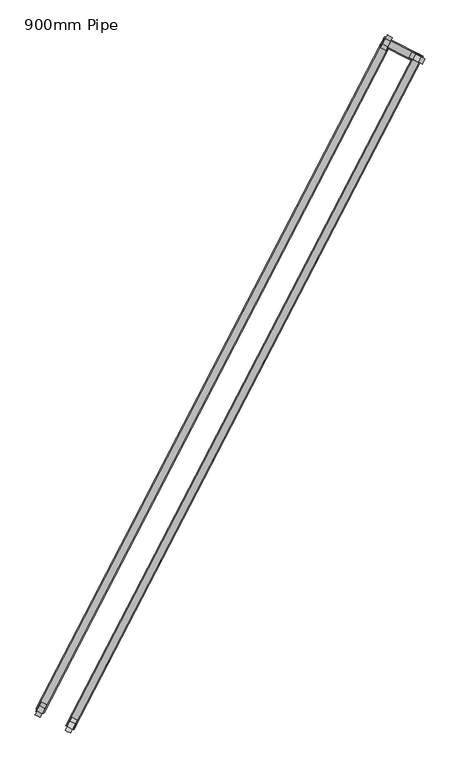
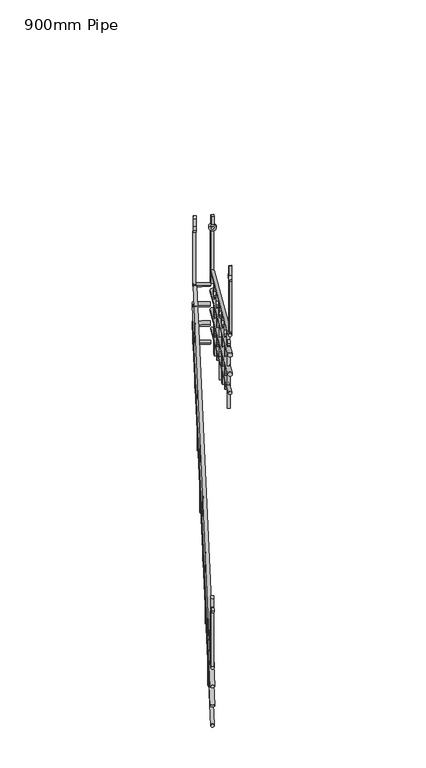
"""IFC4 building model written with IfcOpenShell, lengths in millimetres: railing geometry, 900mm Pipe."""

from ifc_helpers import new_model, si_unit, point, frame, frame_2d, origin, place, context, project, spatial, polyline, circle_curve, ellipse_curve, trimmed, segment, composite_curve, outline, extrude, source, transform, mapped, element, save
from ifc_brep_helpers import plane_surface, cylinder_surface, advanced_brep


def railing_900mm_pipe_1c167c74(model_context):
    return source(origin(), model_context, "Body", "SolidModel", [
        advanced_brep(
        [(7201.7798218, -26010.5348664, 4433.2296007), (7228.4133798, -26024.3426029, 4433.2296007), (8722.3106378, -23077.6033267, 6085.0), (8748.9441959, -23091.4110631, 6085.0), (8725.3167563, -23071.804865, 6085.0), (8752.0624335, -23085.3963363, 6085.0)],
        [
            (0, 1, ellipse_curve(frame((7215.0966008, -26017.4387346, 4433.2296007), z_axis=(-0.46025788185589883, -0.8877852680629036, 0.0), x_axis=(0.0, 0.0, -1.0)), 16.7703993, 15.0)),
            (1, 0, ellipse_curve(frame((7215.0966008, -26017.4387346, 4433.2296007), z_axis=(-0.46025788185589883, -0.8877852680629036, 0.0), x_axis=(0.0, 0.0, -1.0)), 16.7703993, 15.0)),
            (0, 2),
            (2, 3, ellipse_curve(frame((8735.6274168, -23084.5071949, 6085.0), z_axis=(-0.44794621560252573, -0.864037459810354, -0.2297465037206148), x_axis=(0.10574263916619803, 0.2039655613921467, -0.9732505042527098)), 15.4122705, 15.0)),
            (3, 1),
            (3, 2, ellipse_curve(frame((8735.6274168, -23084.5071949, 6085.0), z_axis=(-0.44794621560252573, -0.864037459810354, -0.2297465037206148), x_axis=(0.10574263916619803, 0.2039655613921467, -0.9732505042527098)), 15.4122705, 15.0)),
            (4, 5, ellipse_curve(frame((8738.6895949, -23078.6006006, 6085.0), z_axis=(0.4530341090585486, 0.8914931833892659, 0.0), x_axis=(-0.8914931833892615, 0.45303410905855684, 0.0)), 15.0004945, 15.0)),
            (5, 4, ellipse_curve(frame((8738.6895949, -23078.6006006, 6085.0), z_axis=(0.4530341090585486, 0.8914931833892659, 0.0), x_axis=(-0.8914931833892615, 0.45303410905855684, 0.0)), 15.0004945, 15.0)),
            (2, 4),
            (5, 3),
        ],
        [
            plane_surface(frame((7215.0966008, -26017.4387346, 4450.0), z_axis=(-0.46025788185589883, -0.8877852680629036, 0.0), x_axis=(0.8877852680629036, -0.46025788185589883, 0.0))),
            cylinder_surface(frame((7218.1840231, -26011.4834471, 4436.5835037), z_axis=(-0.41166987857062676, -0.7940645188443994, -0.4472018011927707), x_axis=(0.8877852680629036, -0.460257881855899, 0.0)), 15.0),
            plane_surface(frame((8738.6895949, -23078.6006006, 6100.0), z_axis=(0.4530341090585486, 0.8914931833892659, 0.0), x_axis=(0.8914931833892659, -0.4530341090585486, 0.0))),
            cylinder_surface(frame((8733.9976827, -23087.6507673, 6085.0), z_axis=(-0.46025788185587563, -0.8877852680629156, 0.0), x_axis=(0.8877852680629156, -0.46025788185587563, 0.0)), 15.0),
        ],
        [
            (0, [[1, 2]]),
            (1, [[-1, 3, 4, 5]]),
            (1, [[-2, -5, 6, -3]]),
            (2, [[7, 8]]),
            (3, [[-4, 9, -8, 10]]),
            (3, [[-6, -10, -7, -9]]),
        ],
    ),
        advanced_brep(
        [(8739.124948, -23045.1704289, 6085.0), (8725.3167563, -23071.804865, 6085.0), (8873.566552, -23113.4902248, 6085.0), (8859.7583603, -23140.1246608, 6085.0)],
        [
            (0, 1, ellipse_curve(frame((8732.2208521, -23058.4876469, 6085.0), z_axis=(-0.8877852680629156, 0.4602578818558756, 0.0), x_axis=(-0.4602578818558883, -0.887785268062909, 0.0)), 15.0004945, 15.0)),
            (1, 0, ellipse_curve(frame((8732.2208521, -23058.4876469, 6085.0), z_axis=(-0.8877852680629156, 0.4602578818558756, 0.0), x_axis=(-0.4602578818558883, -0.887785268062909, 0.0)), 15.0004945, 15.0)),
            (2, 3, ellipse_curve(frame((8866.6624562, -23126.8074428, 6085.0), z_axis=(0.8877852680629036, -0.4602578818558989, 0.0), x_axis=(-0.46025788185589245, -0.8877852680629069, 0.0)), 15.0004945, 15.0)),
            (3, 2, ellipse_curve(frame((8866.6624562, -23126.8074428, 6085.0), z_axis=(0.8877852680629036, -0.4602578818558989, 0.0), x_axis=(-0.46025788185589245, -0.8877852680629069, 0.0)), 15.0004945, 15.0)),
            (0, 2),
            (3, 1),
        ],
        [
            plane_surface(frame((8732.2208521, -23058.4876469, 6100.0), z_axis=(-0.8877852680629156, 0.4602578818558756, 0.0), x_axis=(0.4602578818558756, 0.8877852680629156, 0.0))),
            plane_surface(frame((8866.6624562, -23126.8074428, 6100.0), z_axis=(0.8877852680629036, -0.4602578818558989, 0.0), x_axis=(0.4602578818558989, 0.8877852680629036, 0.0))),
            cylinder_surface(frame((8732.2208521, -23058.4876469, 6085.0), z_axis=(-0.8914931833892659, 0.4530341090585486, 0.0), x_axis=(-0.4530341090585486, -0.8914931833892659, 0.0)), 15.0),
        ],
        [
            (0, [[1, 2]]),
            (1, [[3, 4]]),
            (2, [[-1, 5, -4, 6]]),
            (2, [[-2, -6, -3, -5]]),
        ],
    ),
        advanced_brep(
        [(8900.3122292, -23127.0816961, 6212.8655817), (8873.566552, -23113.4902248, 6212.987378), (7362.6651288, -26093.0286077, 7883.2296007), (7336.0315707, -26079.2208712, 7883.2296007)],
        [
            (0, 1, ellipse_curve(frame((8886.9393906, -23120.2859604, 6212.9264798), z_axis=(0.4530341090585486, 0.8914931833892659, 0.0), x_axis=(0.014475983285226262, -0.007356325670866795, -0.9998681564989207)), 16.7709521, 15.0)),
            (1, 0, ellipse_curve(frame((8886.9393906, -23120.2859604, 6212.9264798), z_axis=(0.4530341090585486, 0.8914931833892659, 0.0), x_axis=(0.014475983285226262, -0.007356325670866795, -0.9998681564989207)), 16.7709521, 15.0)),
            (2, 3, ellipse_curve(frame((7349.3483498, -26086.1247394, 7883.2296007), z_axis=(-0.46025788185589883, -0.8877852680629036, 0.0), x_axis=(0.0, 0.0, -1.0)), 16.7703993, 15.0)),
            (3, 2, ellipse_curve(frame((7349.3483498, -26086.1247394, 7883.2296007), z_axis=(-0.46025788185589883, -0.8877852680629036, 0.0), x_axis=(0.0, 0.0, -1.0)), 16.7703993, 15.0)),
            (0, 2),
            (3, 1),
        ],
        [
            plane_surface(frame((8886.9393906, -23120.2859604, 6229.6968791), z_axis=(0.4530341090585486, 0.8914931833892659, 0.0), x_axis=(0.8914931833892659, -0.4530341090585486, 0.0))),
            plane_surface(frame((7349.3483498, -26086.1247394, 7900.0), z_axis=(-0.46025788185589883, -0.8877852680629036, 0.0), x_axis=(0.8877852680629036, -0.46025788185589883, 0.0))),
            cylinder_surface(frame((8883.8519683, -23126.241248, 6216.2803828), z_axis=(0.41166987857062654, 0.7940645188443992, -0.44720180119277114), x_axis=(-0.8877852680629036, 0.46025788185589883, 0.0)), 15.0),
        ],
        [
            (0, [[1, 2]]),
            (1, [[3, 4]]),
            (2, [[-1, 5, -4, 6]]),
            (2, [[-2, -6, -3, -5]]),
        ],
    ),
        advanced_brep(
        [(7201.4574585, -26000.2931936, 4232.1113382), (7236.9688693, -26018.7035088, 4232.1113382), (8720.3585404, -23070.5052263, 5882.1113382), (8755.8699511, -23088.9155415, 5882.1113382)],
        [
            (0, 1, circle_curve(frame((7219.2131639, -26009.4983512, 4232.1113382), z_axis=(-0.41166987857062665, -0.7940645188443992, -0.4472018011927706), x_axis=(0.8877852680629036, -0.460257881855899, 0.0)), 20.0)),
            (1, 0, circle_curve(frame((7219.2131639, -26009.4983512, 4232.1113382), z_axis=(-0.41166987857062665, -0.7940645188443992, -0.4472018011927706), x_axis=(0.8877852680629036, -0.460257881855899, 0.0)), 20.0)),
            (2, 3, circle_curve(frame((8738.1142458, -23079.7103839, 5882.1113382), z_axis=(0.41166987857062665, 0.7940645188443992, 0.4472018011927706), x_axis=(0.8877852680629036, -0.460257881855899, 0.0)), 20.0)),
            (3, 2, circle_curve(frame((8738.1142458, -23079.7103839, 5882.1113382), z_axis=(0.41166987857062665, 0.7940645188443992, 0.4472018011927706), x_axis=(0.8877852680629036, -0.460257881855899, 0.0)), 20.0)),
            (0, 2),
            (3, 1),
        ],
        [
            plane_surface(frame((7215.0966008, -26037.0672033, 4284.8528796), z_axis=(-0.41166987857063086, -0.794064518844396, -0.4472018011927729), x_axis=(0.9113330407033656, -0.35869701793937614, -0.20201123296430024))),
            plane_surface(frame((8733.9976827, -23107.279236, 5934.8528796), z_axis=(0.41166987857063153, 0.794064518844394, 0.44720180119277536), x_axis=(0.9113330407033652, -0.35869701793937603, -0.20201123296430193))),
            cylinder_surface(frame((7219.2131639, -26009.4983512, 4232.1113382), z_axis=(-0.41166987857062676, -0.7940645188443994, -0.4472018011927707), x_axis=(0.8877852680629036, -0.460257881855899, 0.0)), 20.0),
        ],
        [
            (0, [[1, 2]]),
            (1, [[3, 4]]),
            (2, [[-1, 5, -4, 6]]),
            (2, [[-2, -6, -3, -5]]),
        ],
    ),
        advanced_brep(
        [(8716.2419773, -23078.4456097, 5880.0), (8751.753388, -23096.855925, 5880.0), (8718.6325243, -23073.8345157, 5880.0), (8754.143935, -23092.2448309, 5880.0)],
        [
            (0, 1, circle_curve(frame((8733.9976827, -23087.6507673, 5880.0), z_axis=(-0.4602578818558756, -0.8877852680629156, 0.0), x_axis=(0.8877852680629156, -0.4602578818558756, 0.0)), 20.0)),
            (1, 0, circle_curve(frame((8733.9976827, -23087.6507673, 5880.0), z_axis=(-0.4602578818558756, -0.8877852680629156, 0.0), x_axis=(0.8877852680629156, -0.4602578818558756, 0.0)), 20.0)),
            (2, 3, circle_curve(frame((8736.3882296, -23083.0396733, 5880.0), z_axis=(0.4602578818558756, 0.8877852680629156, 0.0), x_axis=(0.8877852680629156, -0.4602578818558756, 0.0)), 20.0)),
            (3, 2, circle_curve(frame((8736.3882296, -23083.0396733, 5880.0), z_axis=(0.4602578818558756, 0.8877852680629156, 0.0), x_axis=(0.8877852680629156, -0.4602578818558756, 0.0)), 20.0)),
            (0, 2),
            (3, 1),
        ],
        [
            plane_surface(frame((8733.9976827, -23087.6507673, 5940.0), z_axis=(-0.4602578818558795, -0.8877852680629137, 0.0), x_axis=(0.8877852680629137, -0.4602578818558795, 0.0))),
            plane_surface(frame((8736.3882296, -23083.0396733, 5940.0), z_axis=(0.4602578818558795, 0.8877852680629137, 0.0), x_axis=(0.8877852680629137, -0.4602578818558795, 0.0))),
            cylinder_surface(frame((8733.9976827, -23087.6507673, 5880.0), z_axis=(-0.4602578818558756, -0.8877852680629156, 0.0), x_axis=(0.8877852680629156, -0.4602578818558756, 0.0)), 20.0),
        ],
        [
            (0, [[1, 2]]),
            (1, [[3, 4]]),
            (2, [[-1, 5, -4, 6]]),
            (2, [[-2, -6, -3, -5]]),
        ],
    ),
        advanced_brep(
        [(8736.9687004, -23038.466111, 5880.0), (8718.5577782, -23073.9786924, 5880.0), (8871.4103044, -23106.7859069, 5880.0), (8852.9993822, -23142.2984883, 5880.0)],
        [
            (0, 1, ellipse_curve(frame((8727.7632393, -23056.2224017, 5880.0), z_axis=(-0.8877852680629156, 0.4602578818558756, 0.0), x_axis=(-0.4602578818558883, -0.887785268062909, 0.0)), 20.0006593, 20.0)),
            (1, 0, ellipse_curve(frame((8727.7632393, -23056.2224017, 5880.0), z_axis=(-0.8877852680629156, 0.4602578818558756, 0.0), x_axis=(-0.4602578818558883, -0.887785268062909, 0.0)), 20.0006593, 20.0)),
            (2, 3, ellipse_curve(frame((8862.2048433, -23124.5421976, 5880.0), z_axis=(0.8877852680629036, -0.4602578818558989, 0.0), x_axis=(-0.46025788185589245, -0.8877852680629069, 0.0)), 20.0006593, 20.0)),
            (3, 2, ellipse_curve(frame((8862.2048433, -23124.5421976, 5880.0), z_axis=(0.8877852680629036, -0.4602578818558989, 0.0), x_axis=(-0.46025788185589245, -0.8877852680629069, 0.0)), 20.0006593, 20.0)),
            (0, 2),
            (3, 1),
        ],
        [
            plane_surface(frame((8727.7632393, -23056.2224017, 5900.0), z_axis=(-0.8877852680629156, 0.4602578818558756, 0.0), x_axis=(0.4602578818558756, 0.8877852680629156, 0.0))),
            plane_surface(frame((8862.2048433, -23124.5421976, 5900.0), z_axis=(0.8877852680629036, -0.4602578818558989, 0.0), x_axis=(0.4602578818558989, 0.8877852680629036, 0.0))),
            cylinder_surface(frame((8727.7632393, -23056.2224017, 5880.0), z_axis=(-0.8914931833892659, 0.4530341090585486, 0.0), x_axis=(-0.4530341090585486, -0.8914931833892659, 0.0)), 20.0),
        ],
        [
            (0, [[1, 2]]),
            (1, [[3, 4]]),
            (2, [[-1, 5, -4, 6]]),
            (2, [[-2, -6, -3, -5]]),
        ],
    ),
        advanced_brep(
        [(8907.0712073, -23124.9078686, 6004.7551492), (8871.4103044, -23106.7859069, 6004.9175443), (7367.1040551, -26095.3298971, 7677.6394677), (7331.5926444, -26076.9195818, 7677.6394677)],
        [
            (0, 1, ellipse_curve(frame((8889.2407559, -23115.8468877, 6004.8363467), z_axis=(0.4530341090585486, 0.8914931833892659, 0.0), x_axis=(0.014475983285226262, -0.007356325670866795, -0.9998681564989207)), 22.3612695, 20.0)),
            (1, 0, ellipse_curve(frame((8889.2407559, -23115.8468877, 6004.8363467), z_axis=(0.4530341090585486, 0.8914931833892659, 0.0), x_axis=(0.014475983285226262, -0.007356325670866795, -0.9998681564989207)), 22.3612695, 20.0)),
            (2, 3, ellipse_curve(frame((7349.3483498, -26086.1247394, 7677.6394677), z_axis=(-0.46025788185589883, -0.8877852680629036, 0.0), x_axis=(0.0, 0.0, -1.0)), 22.3605323, 20.0)),
            (3, 2, ellipse_curve(frame((7349.3483498, -26086.1247394, 7677.6394677), z_axis=(-0.46025788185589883, -0.8877852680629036, 0.0), x_axis=(0.0, 0.0, -1.0)), 22.3605323, 20.0)),
            (0, 2),
            (3, 1),
        ],
        [
            plane_surface(frame((8889.2407559, -23115.8468877, 6027.1968791), z_axis=(0.4530341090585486, 0.8914931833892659, 0.0), x_axis=(0.8914931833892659, -0.4530341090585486, 0.0))),
            plane_surface(frame((7349.3483498, -26086.1247394, 7700.0), z_axis=(-0.46025788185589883, -0.8877852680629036, 0.0), x_axis=(0.8877852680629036, -0.46025788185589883, 0.0))),
            cylinder_surface(frame((8885.1241928, -23123.7872712, 6009.3082173), z_axis=(0.41166987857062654, 0.7940645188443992, -0.44720180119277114), x_axis=(-0.8877852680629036, 0.46025788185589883, 0.0)), 20.0),
        ],
        [
            (0, [[1, 2]]),
            (1, [[3, 4]]),
            (2, [[-1, 5, -4, 6]]),
            (2, [[-2, -6, -3, -5]]),
        ],
    ),
        advanced_brep(
        [(7201.4574585, -26000.2931936, 4032.1113382), (7236.9688693, -26018.7035088, 4032.1113382), (8720.3585404, -23070.5052263, 5682.1113382), (8755.8699511, -23088.9155415, 5682.1113382)],
        [
            (0, 1, circle_curve(frame((7219.2131639, -26009.4983512, 4032.1113382), z_axis=(-0.41166987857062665, -0.7940645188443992, -0.4472018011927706), x_axis=(0.8877852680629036, -0.460257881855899, 0.0)), 20.0)),
            (1, 0, circle_curve(frame((7219.2131639, -26009.4983512, 4032.1113382), z_axis=(-0.41166987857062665, -0.7940645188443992, -0.4472018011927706), x_axis=(0.8877852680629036, -0.460257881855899, 0.0)), 20.0)),
            (2, 3, circle_curve(frame((8738.1142458, -23079.7103839, 5682.1113382), z_axis=(0.41166987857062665, 0.7940645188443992, 0.4472018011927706), x_axis=(0.8877852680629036, -0.460257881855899, 0.0)), 20.0)),
            (3, 2, circle_curve(frame((8738.1142458, -23079.7103839, 5682.1113382), z_axis=(0.41166987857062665, 0.7940645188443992, 0.4472018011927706), x_axis=(0.8877852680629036, -0.460257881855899, 0.0)), 20.0)),
            (0, 2),
            (3, 1),
        ],
        [
            plane_surface(frame((7215.0966008, -26037.0672033, 4084.8528796), z_axis=(-0.41166987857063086, -0.794064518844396, -0.4472018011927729), x_axis=(0.9113330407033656, -0.35869701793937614, -0.20201123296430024))),
            plane_surface(frame((8733.9976827, -23107.279236, 5734.8528796), z_axis=(0.41166987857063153, 0.794064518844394, 0.44720180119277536), x_axis=(0.9113330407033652, -0.35869701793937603, -0.20201123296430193))),
            cylinder_surface(frame((7219.2131639, -26009.4983512, 4032.1113382), z_axis=(-0.41166987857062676, -0.7940645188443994, -0.4472018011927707), x_axis=(0.8877852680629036, -0.460257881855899, 0.0)), 20.0),
        ],
        [
            (0, [[1, 2]]),
            (1, [[3, 4]]),
            (2, [[-1, 5, -4, 6]]),
            (2, [[-2, -6, -3, -5]]),
        ],
    ),
        advanced_brep(
        [(8716.2419773, -23078.4456097, 5680.0), (8751.753388, -23096.855925, 5680.0), (8718.6325243, -23073.8345157, 5680.0), (8754.143935, -23092.2448309, 5680.0)],
        [
            (0, 1, circle_curve(frame((8733.9976827, -23087.6507673, 5680.0), z_axis=(-0.4602578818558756, -0.8877852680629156, 0.0), x_axis=(0.8877852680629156, -0.4602578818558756, 0.0)), 20.0)),
            (1, 0, circle_curve(frame((8733.9976827, -23087.6507673, 5680.0), z_axis=(-0.4602578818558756, -0.8877852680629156, 0.0), x_axis=(0.8877852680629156, -0.4602578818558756, 0.0)), 20.0)),
            (2, 3, circle_curve(frame((8736.3882296, -23083.0396733, 5680.0), z_axis=(0.4602578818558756, 0.8877852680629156, 0.0), x_axis=(0.8877852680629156, -0.4602578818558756, 0.0)), 20.0)),
            (3, 2, circle_curve(frame((8736.3882296, -23083.0396733, 5680.0), z_axis=(0.4602578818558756, 0.8877852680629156, 0.0), x_axis=(0.8877852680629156, -0.4602578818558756, 0.0)), 20.0)),
            (0, 2),
            (3, 1),
        ],
        [
            plane_surface(frame((8733.9976827, -23087.6507673, 5740.0), z_axis=(-0.4602578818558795, -0.8877852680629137, 0.0), x_axis=(0.8877852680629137, -0.4602578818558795, 0.0))),
            plane_surface(frame((8736.3882296, -23083.0396733, 5740.0), z_axis=(0.4602578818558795, 0.8877852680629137, 0.0), x_axis=(0.8877852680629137, -0.4602578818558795, 0.0))),
            cylinder_surface(frame((8733.9976827, -23087.6507673, 5680.0), z_axis=(-0.4602578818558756, -0.8877852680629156, 0.0), x_axis=(0.8877852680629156, -0.4602578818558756, 0.0)), 20.0),
        ],
        [
            (0, [[1, 2]]),
            (1, [[3, 4]]),
            (2, [[-1, 5, -4, 6]]),
            (2, [[-2, -6, -3, -5]]),
        ],
    ),
        advanced_brep(
        [(8736.9687004, -23038.466111, 5680.0), (8718.5577782, -23073.9786924, 5680.0), (8871.4103044, -23106.7859069, 5680.0), (8852.9993822, -23142.2984883, 5680.0)],
        [
            (0, 1, ellipse_curve(frame((8727.7632393, -23056.2224017, 5680.0), z_axis=(-0.8877852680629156, 0.4602578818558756, 0.0), x_axis=(-0.4602578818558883, -0.887785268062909, 0.0)), 20.0006593, 20.0)),
            (1, 0, ellipse_curve(frame((8727.7632393, -23056.2224017, 5680.0), z_axis=(-0.8877852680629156, 0.4602578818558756, 0.0), x_axis=(-0.4602578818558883, -0.887785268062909, 0.0)), 20.0006593, 20.0)),
            (2, 3, ellipse_curve(frame((8862.2048433, -23124.5421976, 5680.0), z_axis=(0.8877852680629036, -0.4602578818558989, 0.0), x_axis=(-0.46025788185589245, -0.8877852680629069, 0.0)), 20.0006593, 20.0)),
            (3, 2, ellipse_curve(frame((8862.2048433, -23124.5421976, 5680.0), z_axis=(0.8877852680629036, -0.4602578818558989, 0.0), x_axis=(-0.46025788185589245, -0.8877852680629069, 0.0)), 20.0006593, 20.0)),
            (0, 2),
            (3, 1),
        ],
        [
            plane_surface(frame((8727.7632393, -23056.2224017, 5700.0), z_axis=(-0.8877852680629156, 0.4602578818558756, 0.0), x_axis=(0.4602578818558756, 0.8877852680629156, 0.0))),
            plane_surface(frame((8862.2048433, -23124.5421976, 5700.0), z_axis=(0.8877852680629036, -0.4602578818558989, 0.0), x_axis=(0.4602578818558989, 0.8877852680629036, 0.0))),
            cylinder_surface(frame((8727.7632393, -23056.2224017, 5680.0), z_axis=(-0.8914931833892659, 0.4530341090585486, 0.0), x_axis=(-0.4530341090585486, -0.8914931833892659, 0.0)), 20.0),
        ],
        [
            (0, [[1, 2]]),
            (1, [[3, 4]]),
            (2, [[-1, 5, -4, 6]]),
            (2, [[-2, -6, -3, -5]]),
        ],
    ),
        advanced_brep(
        [(8907.0712073, -23124.9078686, 5804.7551492), (8871.4103044, -23106.7859069, 5804.9175443), (7367.1040551, -26095.3298971, 7477.6394677), (7331.5926444, -26076.9195818, 7477.6394677)],
        [
            (0, 1, ellipse_curve(frame((8889.2407559, -23115.8468877, 5804.8363467), z_axis=(0.4530341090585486, 0.8914931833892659, 0.0), x_axis=(0.014475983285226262, -0.007356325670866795, -0.9998681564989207)), 22.3612695, 20.0)),
            (1, 0, ellipse_curve(frame((8889.2407559, -23115.8468877, 5804.8363467), z_axis=(0.4530341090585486, 0.8914931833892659, 0.0), x_axis=(0.014475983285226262, -0.007356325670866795, -0.9998681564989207)), 22.3612695, 20.0)),
            (2, 3, ellipse_curve(frame((7349.3483498, -26086.1247394, 7477.6394677), z_axis=(-0.46025788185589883, -0.8877852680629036, 0.0), x_axis=(0.0, 0.0, -1.0)), 22.3605323, 20.0)),
            (3, 2, ellipse_curve(frame((7349.3483498, -26086.1247394, 7477.6394677), z_axis=(-0.46025788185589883, -0.8877852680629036, 0.0), x_axis=(0.0, 0.0, -1.0)), 22.3605323, 20.0)),
            (0, 2),
            (3, 1),
        ],
        [
            plane_surface(frame((8889.2407559, -23115.8468877, 5827.1968791), z_axis=(0.4530341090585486, 0.8914931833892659, 0.0), x_axis=(0.8914931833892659, -0.4530341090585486, 0.0))),
            plane_surface(frame((7349.3483498, -26086.1247394, 7500.0), z_axis=(-0.46025788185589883, -0.8877852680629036, 0.0), x_axis=(0.8877852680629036, -0.46025788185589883, 0.0))),
            cylinder_surface(frame((8885.1241928, -23123.7872712, 5809.3082173), z_axis=(0.41166987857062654, 0.7940645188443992, -0.44720180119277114), x_axis=(-0.8877852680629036, 0.46025788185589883, 0.0)), 20.0),
        ],
        [
            (0, [[1, 2]]),
            (1, [[3, 4]]),
            (2, [[-1, 5, -4, 6]]),
            (2, [[-2, -6, -3, -5]]),
        ],
    ),
        advanced_brep(
        [(7201.7798218, -26010.5348664, 3833.2296007), (7228.4133798, -26024.3426029, 3833.2296007), (8722.3106378, -23077.6033267, 5485.0), (8748.9441959, -23091.4110631, 5485.0), (8725.3167563, -23071.804865, 5485.0), (8752.0624335, -23085.3963363, 5485.0)],
        [
            (0, 1, ellipse_curve(frame((7215.0966008, -26017.4387346, 3833.2296007), z_axis=(-0.46025788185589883, -0.8877852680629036, 0.0), x_axis=(0.0, 0.0, -1.0)), 16.7703993, 15.0)),
            (1, 0, ellipse_curve(frame((7215.0966008, -26017.4387346, 3833.2296007), z_axis=(-0.46025788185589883, -0.8877852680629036, 0.0), x_axis=(0.0, 0.0, -1.0)), 16.7703993, 15.0)),
            (0, 2),
            (2, 3, ellipse_curve(frame((8735.6274168, -23084.5071949, 5485.0), z_axis=(-0.44794621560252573, -0.864037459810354, -0.2297465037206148), x_axis=(0.10574263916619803, 0.2039655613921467, -0.9732505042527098)), 15.4122705, 15.0)),
            (3, 1),
            (3, 2, ellipse_curve(frame((8735.6274168, -23084.5071949, 5485.0), z_axis=(-0.44794621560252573, -0.864037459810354, -0.2297465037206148), x_axis=(0.10574263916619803, 0.2039655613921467, -0.9732505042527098)), 15.4122705, 15.0)),
            (4, 5, ellipse_curve(frame((8738.6895949, -23078.6006006, 5485.0), z_axis=(0.4530341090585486, 0.8914931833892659, 0.0), x_axis=(-0.8914931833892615, 0.45303410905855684, 0.0)), 15.0004945, 15.0)),
            (5, 4, ellipse_curve(frame((8738.6895949, -23078.6006006, 5485.0), z_axis=(0.4530341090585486, 0.8914931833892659, 0.0), x_axis=(-0.8914931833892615, 0.45303410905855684, 0.0)), 15.0004945, 15.0)),
            (2, 4),
            (5, 3),
        ],
        [
            plane_surface(frame((7215.0966008, -26017.4387346, 3850.0), z_axis=(-0.46025788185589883, -0.8877852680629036, 0.0), x_axis=(0.8877852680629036, -0.46025788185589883, 0.0))),
            cylinder_surface(frame((7218.1840231, -26011.4834471, 3836.5835037), z_axis=(-0.41166987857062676, -0.7940645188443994, -0.4472018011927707), x_axis=(0.8877852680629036, -0.460257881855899, 0.0)), 15.0),
            plane_surface(frame((8738.6895949, -23078.6006006, 5500.0), z_axis=(0.4530341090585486, 0.8914931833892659, 0.0), x_axis=(0.8914931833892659, -0.4530341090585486, 0.0))),
            cylinder_surface(frame((8733.9976827, -23087.6507673, 5485.0), z_axis=(-0.46025788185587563, -0.8877852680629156, 0.0), x_axis=(0.8877852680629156, -0.46025788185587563, 0.0)), 15.0),
        ],
        [
            (0, [[1, 2]]),
            (1, [[-1, 3, 4, 5]]),
            (1, [[-2, -5, 6, -3]]),
            (2, [[7, 8]]),
            (3, [[-4, 9, -8, 10]]),
            (3, [[-6, -10, -7, -9]]),
        ],
    ),
        advanced_brep(
        [(8739.124948, -23045.1704289, 5485.0), (8725.3167563, -23071.804865, 5485.0), (8873.566552, -23113.4902248, 5485.0), (8859.7583603, -23140.1246608, 5485.0)],
        [
            (0, 1, ellipse_curve(frame((8732.2208521, -23058.4876469, 5485.0), z_axis=(-0.8877852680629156, 0.4602578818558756, 0.0), x_axis=(-0.4602578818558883, -0.887785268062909, 0.0)), 15.0004945, 15.0)),
            (1, 0, ellipse_curve(frame((8732.2208521, -23058.4876469, 5485.0), z_axis=(-0.8877852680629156, 0.4602578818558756, 0.0), x_axis=(-0.4602578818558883, -0.887785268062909, 0.0)), 15.0004945, 15.0)),
            (2, 3, ellipse_curve(frame((8866.6624562, -23126.8074428, 5485.0), z_axis=(0.8877852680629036, -0.4602578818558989, 0.0), x_axis=(-0.46025788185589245, -0.8877852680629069, 0.0)), 15.0004945, 15.0)),
            (3, 2, ellipse_curve(frame((8866.6624562, -23126.8074428, 5485.0), z_axis=(0.8877852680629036, -0.4602578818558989, 0.0), x_axis=(-0.46025788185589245, -0.8877852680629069, 0.0)), 15.0004945, 15.0)),
            (0, 2),
            (3, 1),
        ],
        [
            plane_surface(frame((8732.2208521, -23058.4876469, 5500.0), z_axis=(-0.8877852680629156, 0.4602578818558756, 0.0), x_axis=(0.4602578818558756, 0.8877852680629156, 0.0))),
            plane_surface(frame((8866.6624562, -23126.8074428, 5500.0), z_axis=(0.8877852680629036, -0.4602578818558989, 0.0), x_axis=(0.4602578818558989, 0.8877852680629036, 0.0))),
            cylinder_surface(frame((8732.2208521, -23058.4876469, 5485.0), z_axis=(-0.8914931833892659, 0.4530341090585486, 0.0), x_axis=(-0.4530341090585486, -0.8914931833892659, 0.0)), 15.0),
        ],
        [
            (0, [[1, 2]]),
            (1, [[3, 4]]),
            (2, [[-1, 5, -4, 6]]),
            (2, [[-2, -6, -3, -5]]),
        ],
    ),
        advanced_brep(
        [(8900.3122292, -23127.0816961, 5612.8655817), (8873.566552, -23113.4902248, 5612.987378), (7362.6651288, -26093.0286077, 7283.2296007), (7336.0315707, -26079.2208712, 7283.2296007)],
        [
            (0, 1, ellipse_curve(frame((8886.9393906, -23120.2859604, 5612.9264798), z_axis=(0.4530341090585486, 0.8914931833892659, 0.0), x_axis=(0.014475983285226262, -0.007356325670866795, -0.9998681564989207)), 16.7709521, 15.0)),
            (1, 0, ellipse_curve(frame((8886.9393906, -23120.2859604, 5612.9264798), z_axis=(0.4530341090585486, 0.8914931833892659, 0.0), x_axis=(0.014475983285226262, -0.007356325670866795, -0.9998681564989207)), 16.7709521, 15.0)),
            (2, 3, ellipse_curve(frame((7349.3483498, -26086.1247394, 7283.2296007), z_axis=(-0.46025788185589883, -0.8877852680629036, 0.0), x_axis=(0.0, 0.0, -1.0)), 16.7703993, 15.0)),
            (3, 2, ellipse_curve(frame((7349.3483498, -26086.1247394, 7283.2296007), z_axis=(-0.46025788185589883, -0.8877852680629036, 0.0), x_axis=(0.0, 0.0, -1.0)), 16.7703993, 15.0)),
            (0, 2),
            (3, 1),
        ],
        [
            plane_surface(frame((8886.9393906, -23120.2859604, 5629.6968791), z_axis=(0.4530341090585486, 0.8914931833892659, 0.0), x_axis=(0.8914931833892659, -0.4530341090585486, 0.0))),
            plane_surface(frame((7349.3483498, -26086.1247394, 7300.0), z_axis=(-0.46025788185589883, -0.8877852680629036, 0.0), x_axis=(0.8877852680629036, -0.46025788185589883, 0.0))),
            cylinder_surface(frame((8883.8519683, -23126.241248, 5616.2803828), z_axis=(0.41166987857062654, 0.7940645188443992, -0.44720180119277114), x_axis=(-0.8877852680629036, 0.46025788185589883, 0.0)), 15.0),
        ],
        [
            (0, [[1, 2]]),
            (1, [[3, 4]]),
            (2, [[-1, 5, -4, 6]]),
            (2, [[-2, -6, -3, -5]]),
        ],
    ),
        extrude(outline(composite_curve([segment(trimmed(circle_curve(frame_2d((0.0, -31.7499999)), 31.75), [point((0.0, -63.4999999))], [point((0.0, 0.0))], False, "CARTESIAN"), True, "CONTINUOUS"), segment(trimmed(circle_curve(frame_2d((0.0, -31.7499999)), 31.75), [point((0.0, 0.0))], [point((0.0, -63.4999999))], False, "CARTESIAN"), True, "CONTINUOUS")], self_intersect=False), holes=[composite_curve([segment(trimmed(circle_curve(frame_2d((0.0, -31.7499999)), 12.7), [point((0.0, -44.4499999))], [point((0.0, -19.0499999))], True, "CARTESIAN"), True, "CONTINUOUS"), segment(trimmed(circle_curve(frame_2d((0.0, -31.7499999)), 12.7), [point((0.0, -19.0499999))], [point((0.0, -44.4499999))], True, "CARTESIAN"), True, "CONTINUOUS")], self_intersect=False)]), frame((7525.1497098, -25774.6170755, 7586.5221548), z_axis=(-0.8877852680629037, 0.460257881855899, 0.0), x_axis=(0.0, 0.0, 1.0)), (0.0, 0.0, 1.0), 25.4),
        extrude(outline(polyline([(7498.1120884, -25778.4814352), (7520.6618342, -25790.1719854), (7508.971284, -25812.7217312), (7486.4215382, -25801.031181), (7498.1120884, -25778.4814352)])), frame((0.0, 0.0, 6900.0), z_axis=(0.0, 0.0, 1.0), x_axis=(1.0, 0.0, 0.0)), (0.0, 0.0, 1.0), 654.7721548),
        extrude(outline(polyline([(317.5, 0.0), (317.5, -25.4), (234.9497907, -25.4), (222.2502094, 0.0), (317.5, 0.0)])), frame((7504.691247, -25814.0791306, 7935.7721548), z_axis=(-0.8877852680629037, 0.460257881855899, 0.0), x_axis=(0.0, 0.0, -1.0)), (0.0, 0.0, 1.0), 25.4),
        extrude(outline(composite_curve([segment(trimmed(circle_curve(frame_2d((0.0, -31.7500001)), 31.75), [point((0.0, -63.5000001))], [point((0.0, 0.0))], False, "CARTESIAN"), True, "CONTINUOUS"), segment(trimmed(circle_curve(frame_2d((0.0, -31.7500001)), 31.75), [point((0.0, 0.0))], [point((0.0, -63.5000001))], False, "CARTESIAN"), True, "CONTINUOUS")], self_intersect=False), holes=[composite_curve([segment(trimmed(circle_curve(frame_2d((0.0, -31.7500001)), 12.7), [point((0.0, -44.4500001))], [point((0.0, -19.0500001))], True, "CARTESIAN"), True, "CONTINUOUS"), segment(trimmed(circle_curve(frame_2d((0.0, -31.7500001)), 12.7), [point((0.0, -19.0500001))], [point((0.0, -44.4500001))], True, "CARTESIAN"), True, "CONTINUOUS")], self_intersect=False)]), frame((7755.2786508, -25330.7244414, 7336.5303962), z_axis=(-0.8877852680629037, 0.460257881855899, 0.0), x_axis=(0.0, 0.0, 1.0)), (0.0, 0.0, 1.0), 25.4),
        extrude(outline(polyline([(7728.2410293, -25334.5888012), (7750.7907751, -25346.2793514), (7739.1002249, -25368.8290972), (7716.5504791, -25357.138547), (7728.2410293, -25334.5888012)])), frame((0.0, 0.0, 6750.0), z_axis=(0.0, 0.0, 1.0), x_axis=(1.0, 0.0, 0.0)), (0.0, 0.0, 1.0), 554.7803962),
        extrude(outline(polyline([(317.5, 0.0), (317.5, -25.4), (234.9497907, -25.4), (222.2502093, 0.0), (317.5, 0.0)])), frame((7734.8201879, -25370.1864966, 7685.7803962), z_axis=(-0.8877852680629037, 0.460257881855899, 0.0), x_axis=(0.0, 0.0, -1.0)), (0.0, 0.0, 1.0), 25.4),
        extrude(outline(composite_curve([segment(trimmed(circle_curve(frame_2d((0.0, -31.75)), 31.75), [point((0.0, -63.5))], [point((0.0, 0.0))], False, "CARTESIAN"), True, "CONTINUOUS"), segment(trimmed(circle_curve(frame_2d((0.0, -31.75)), 31.75), [point((0.0, 0.0))], [point((0.0, -63.5))], False, "CARTESIAN"), True, "CONTINUOUS")], self_intersect=False), holes=[composite_curve([segment(trimmed(circle_curve(frame_2d((0.0, -31.75)), 12.7), [point((0.0, -44.45))], [point((0.0, -19.05))], True, "CARTESIAN"), True, "CONTINUOUS"), segment(trimmed(circle_curve(frame_2d((0.0, -31.75)), 12.7), [point((0.0, -19.05))], [point((0.0, -44.45))], True, "CARTESIAN"), True, "CONTINUOUS")], self_intersect=False)]), frame((7985.4075917, -24886.8318074, 7086.5386377), z_axis=(-0.8877852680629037, 0.460257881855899, 0.0), x_axis=(0.0, 0.0, 1.0)), (0.0, 0.0, 1.0), 25.4),
        extrude(outline(polyline([(7958.3699702, -24890.6961671), (7980.9197161, -24902.3867173), (7969.2291659, -24924.9364631), (7946.67942, -24913.2459129), (7958.3699702, -24890.6961671)])), frame((0.0, 0.0, 6450.0), z_axis=(0.0, 0.0, 1.0), x_axis=(1.0, 0.0, 0.0)), (0.0, 0.0, 1.0), 604.7886377),
        extrude(outline(polyline([(317.5, 0.0), (317.5, -25.4), (234.9497907, -25.4), (222.2502094, 0.0), (317.5, 0.0)])), frame((7964.9491289, -24926.2938626, 7435.7886377), z_axis=(-0.8877852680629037, 0.460257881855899, 0.0), x_axis=(0.0, 0.0, -1.0)), (0.0, 0.0, 1.0), 25.4),
        extrude(outline(composite_curve([segment(trimmed(circle_curve(frame_2d((0.0, -31.7499999)), 31.75), [point((0.0, -63.5))], [point((0.0, 0.0))], False, "CARTESIAN"), True, "CONTINUOUS"), segment(trimmed(circle_curve(frame_2d((0.0, -31.7499999)), 31.75), [point((0.0, 0.0))], [point((0.0, -63.5))], False, "CARTESIAN"), True, "CONTINUOUS")], self_intersect=False), holes=[composite_curve([segment(trimmed(circle_curve(frame_2d((0.0, -31.7499999)), 12.7), [point((0.0, -44.4499999))], [point((0.0, -19.0499999))], True, "CARTESIAN"), True, "CONTINUOUS"), segment(trimmed(circle_curve(frame_2d((0.0, -31.7499999)), 12.7), [point((0.0, -19.0499999))], [point((0.0, -44.4499999))], True, "CARTESIAN"), True, "CONTINUOUS")], self_intersect=False)]), frame((8215.5365326, -24442.9391734, 6836.5221548), z_axis=(-0.8877852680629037, 0.460257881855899, 0.0), x_axis=(0.0, 0.0, 1.0)), (0.0, 0.0, 1.0), 25.4),
        extrude(outline(polyline([(8188.4989112, -24446.8035331), (8211.048657, -24458.4940833), (8199.3581068, -24481.0438291), (8176.808361, -24469.3532789), (8188.4989112, -24446.8035331)])), frame((0.0, 0.0, 6150.0), z_axis=(0.0, 0.0, 1.0), x_axis=(1.0, 0.0, 0.0)), (0.0, 0.0, 1.0), 654.7721548),
        extrude(outline(polyline([(317.5, 0.0), (317.5, -25.4), (234.9497907, -25.4), (222.2502094, 0.0), (317.5, 0.0)])), frame((8195.0780698, -24482.4012285, 7185.7721548), z_axis=(-0.8877852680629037, 0.460257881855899, 0.0), x_axis=(0.0, 0.0, -1.0)), (0.0, 0.0, 1.0), 25.4),
        extrude(outline(composite_curve([segment(trimmed(circle_curve(frame_2d((0.0, -31.75)), 31.75), [point((0.0, -63.5))], [point((0.0, 0.0))], False, "CARTESIAN"), True, "CONTINUOUS"), segment(trimmed(circle_curve(frame_2d((0.0, -31.75)), 31.75), [point((0.0, 0.0))], [point((0.0, -63.5))], False, "CARTESIAN"), True, "CONTINUOUS")], self_intersect=False), holes=[composite_curve([segment(trimmed(circle_curve(frame_2d((0.0, -31.75)), 12.7), [point((0.0, -44.45))], [point((0.0, -19.05))], True, "CARTESIAN"), True, "CONTINUOUS"), segment(trimmed(circle_curve(frame_2d((0.0, -31.75)), 12.7), [point((0.0, -19.05))], [point((0.0, -44.45))], True, "CARTESIAN"), True, "CONTINUOUS")], self_intersect=False)]), frame((8445.6654736, -23999.0465394, 6586.5303962), z_axis=(-0.8877852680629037, 0.460257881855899, 0.0), x_axis=(0.0, 0.0, 1.0)), (0.0, 0.0, 1.0), 25.4),
        extrude(outline(polyline([(8418.6278521, -24002.9108991), (8441.1775979, -24014.6014493), (8429.4870477, -24037.1511951), (8406.9373019, -24025.4606449), (8418.6278521, -24002.9108991)])), frame((0.0, 0.0, 6000.0), z_axis=(0.0, 0.0, 1.0), x_axis=(1.0, 0.0, 0.0)), (0.0, 0.0, 1.0), 554.7803962),
        extrude(outline(polyline([(317.5, 0.0), (317.5, -25.4), (234.9497907, -25.4), (222.2502093, 0.0), (317.5, 0.0)])), frame((8425.2070107, -24038.5085945, 6935.7803962), z_axis=(-0.8877852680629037, 0.460257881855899, 0.0), x_axis=(0.0, 0.0, -1.0)), (0.0, 0.0, 1.0), 25.4),
        extrude(outline(composite_curve([segment(trimmed(circle_curve(frame_2d((0.0, -31.7500001)), 31.75), [point((0.0, -63.5))], [point((0.0, 0.0))], False, "CARTESIAN"), True, "CONTINUOUS"), segment(trimmed(circle_curve(frame_2d((0.0, -31.7500001)), 31.75), [point((0.0, 0.0))], [point((0.0, -63.5))], False, "CARTESIAN"), True, "CONTINUOUS")], self_intersect=False), holes=[composite_curve([segment(trimmed(circle_curve(frame_2d((0.0, -31.7500001)), 12.7), [point((0.0, -44.4500001))], [point((0.0, -19.0500001))], True, "CARTESIAN"), True, "CONTINUOUS"), segment(trimmed(circle_curve(frame_2d((0.0, -31.7500001)), 12.7), [point((0.0, -19.0500001))], [point((0.0, -44.4500001))], True, "CARTESIAN"), True, "CONTINUOUS")], self_intersect=False)]), frame((8675.7944145, -23555.1539053, 6336.5386377), z_axis=(-0.8877852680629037, 0.460257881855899, 0.0), x_axis=(0.0, 0.0, 1.0)), (0.0, 0.0, 1.0), 25.4),
        extrude(outline(polyline([(8648.756793, -23559.018265), (8671.3065388, -23570.7088152), (8659.6159886, -23593.258561), (8637.0662428, -23581.5680108), (8648.756793, -23559.018265)])), frame((0.0, 0.0, 5700.0), z_axis=(0.0, 0.0, 1.0), x_axis=(1.0, 0.0, 0.0)), (0.0, 0.0, 1.0), 604.7886377),
        extrude(outline(polyline([(317.5, 0.0), (317.5, -25.4), (234.9497907, -25.4), (222.2502094, 0.0), (317.5, 0.0)])), frame((8655.3359516, -23594.6159605, 6685.7886377), z_axis=(-0.8877852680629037, 0.460257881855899, 0.0), x_axis=(0.0, 0.0, -1.0)), (0.0, 0.0, 1.0), 25.4),
        extrude(outline(composite_curve([segment(trimmed(circle_curve(frame_2d((0.0, -31.7500001)), 31.75), [point((0.0, -63.5))], [point((0.0, 0.0))], False, "CARTESIAN"), True, "CONTINUOUS"), segment(trimmed(circle_curve(frame_2d((0.0, -31.7500001)), 31.75), [point((0.0, 0.0))], [point((0.0, -63.5))], False, "CARTESIAN"), True, "CONTINUOUS")], self_intersect=False), holes=[composite_curve([segment(trimmed(circle_curve(frame_2d((0.0, -31.7500001)), 12.7), [point((0.0, -44.4500001))], [point((0.0, -19.0500001))], True, "CARTESIAN"), True, "CONTINUOUS"), segment(trimmed(circle_curve(frame_2d((0.0, -31.7500001)), 12.7), [point((0.0, -19.0500001))], [point((0.0, -44.4500001))], True, "CARTESIAN"), True, "CONTINUOUS")], self_intersect=False)]), frame((8592.5319315, -23388.1153878, 5799.3005514), z_axis=(-0.8877852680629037, 0.46025788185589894, 0.0), x_axis=(0.0, 0.0, -1.0)), (0.0, 0.0, 1.0), 25.4),
        extrude(outline(polyline([(8597.0198072, -23372.5604779), (8574.4700614, -23360.8699277), (8586.1606116, -23338.3201819), (8608.7103574, -23350.0107321), (8597.0198072, -23372.5604779)])), frame((0.0, 0.0, 5249.9505514), z_axis=(0.0, 0.0, 1.0), x_axis=(1.0, 0.0, 0.0)), (0.0, 0.0, 1.0), 517.6),
        extrude(outline(polyline([(317.5, 0.0), (317.5, -25.4), (222.2502094, -25.4), (234.9497907, 0.0), (317.5, 0.0)])), frame((8601.2998442, -23371.2030784, 6148.5505514), z_axis=(-0.8877852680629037, 0.46025788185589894, 0.0), x_axis=(0.0, 0.0, -1.0)), (0.0, 0.0, 1.0), 25.4),
        extrude(outline(composite_curve([segment(trimmed(circle_curve(frame_2d((0.0, -31.75)), 31.75), [point((0.0, -63.5))], [point((0.0, 0.0))], False, "CARTESIAN"), True, "CONTINUOUS"), segment(trimmed(circle_curve(frame_2d((0.0, -31.75)), 31.75), [point((0.0, 0.0))], [point((0.0, -63.5))], False, "CARTESIAN"), True, "CONTINUOUS")], self_intersect=False), holes=[composite_curve([segment(trimmed(circle_curve(frame_2d((0.0, -31.75)), 12.7), [point((0.0, -44.45))], [point((0.0, -19.05))], True, "CARTESIAN"), True, "CONTINUOUS"), segment(trimmed(circle_curve(frame_2d((0.0, -31.75)), 12.7), [point((0.0, -19.05))], [point((0.0, -44.45))], True, "CARTESIAN"), True, "CONTINUOUS")], self_intersect=False)]), frame((8362.4029906, -23832.0080218, 5549.3335171), z_axis=(-0.8877852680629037, 0.46025788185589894, 0.0), x_axis=(0.0, 0.0, -1.0)), (0.0, 0.0, 1.0), 25.4),
        extrude(outline(polyline([(8366.8908663, -23816.4531119), (8344.3411205, -23804.7625617), (8356.0316707, -23782.2128159), (8378.5814165, -23793.9033661), (8366.8908663, -23816.4531119)])), frame((0.0, 0.0, 4950.0), z_axis=(0.0, 0.0, 1.0), x_axis=(1.0, 0.0, 0.0)), (0.0, 0.0, 1.0), 567.5835171),
        extrude(outline(polyline([(317.5, 0.0), (317.5, -25.4), (222.2502093, -25.4), (234.9497906, 0.0), (317.5, 0.0)])), frame((8371.1709033, -23815.0957125, 5898.5835171), z_axis=(-0.8877852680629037, 0.46025788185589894, 0.0), x_axis=(0.0, 0.0, -1.0)), (0.0, 0.0, 1.0), 25.4),
        extrude(outline(composite_curve([segment(trimmed(circle_curve(frame_2d((0.0, -31.75)), 31.75), [point((0.0, -63.5000001))], [point((0.0, 0.0))], False, "CARTESIAN"), True, "CONTINUOUS"), segment(trimmed(circle_curve(frame_2d((0.0, -31.75)), 31.75), [point((0.0, 0.0))], [point((0.0, -63.5000001))], False, "CARTESIAN"), True, "CONTINUOUS")], self_intersect=False), holes=[composite_curve([segment(trimmed(circle_curve(frame_2d((0.0, -31.75)), 12.7), [point((0.0, -44.45))], [point((0.0, -19.05))], True, "CARTESIAN"), True, "CONTINUOUS"), segment(trimmed(circle_curve(frame_2d((0.0, -31.75)), 12.7), [point((0.0, -19.05))], [point((0.0, -44.45))], True, "CARTESIAN"), True, "CONTINUOUS")], self_intersect=False)]), frame((8132.2740497, -24275.9006559, 5299.3417586), z_axis=(-0.8877852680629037, 0.46025788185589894, 0.0), x_axis=(0.0, 0.0, -1.0)), (0.0, 0.0, 1.0), 25.4),
        extrude(outline(polyline([(8136.7619253, -24260.345746), (8114.2121795, -24248.6551958), (8125.9027297, -24226.1054499), (8148.4524755, -24237.7960001), (8136.7619253, -24260.345746)])), frame((0.0, 0.0, 4650.0), z_axis=(0.0, 0.0, 1.0), x_axis=(1.0, 0.0, 0.0)), (0.0, 0.0, 1.0), 617.5917586),
        extrude(outline(polyline([(317.5, 0.0), (317.5, -25.4), (222.2502094, -25.4), (234.9497907, 0.0), (317.5, 0.0)])), frame((8141.0419623, -24258.9883465, 5648.5917586), z_axis=(-0.8877852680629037, 0.46025788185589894, 0.0), x_axis=(0.0, 0.0, -1.0)), (0.0, 0.0, 1.0), 25.4),
        extrude(outline(composite_curve([segment(trimmed(circle_curve(frame_2d((0.0, -31.75)), 31.75), [point((0.0, -63.5))], [point((0.0, 0.0))], False, "CARTESIAN"), True, "CONTINUOUS"), segment(trimmed(circle_curve(frame_2d((0.0, -31.75)), 31.75), [point((0.0, 0.0))], [point((0.0, -63.5))], False, "CARTESIAN"), True, "CONTINUOUS")], self_intersect=False), holes=[composite_curve([segment(trimmed(circle_curve(frame_2d((0.0, -31.75)), 12.7), [point((0.0, -44.45))], [point((0.0, -19.05))], True, "CARTESIAN"), True, "CONTINUOUS"), segment(trimmed(circle_curve(frame_2d((0.0, -31.75)), 12.7), [point((0.0, -19.05))], [point((0.0, -44.45))], True, "CARTESIAN"), True, "CONTINUOUS")], self_intersect=False)]), frame((7902.1451088, -24719.7932899, 5049.3252757), z_axis=(-0.8877852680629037, 0.46025788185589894, 0.0), x_axis=(0.0, 0.0, -1.0)), (0.0, 0.0, 1.0), 25.4),
        extrude(outline(polyline([(7906.6329844, -24704.23838), (7884.0832386, -24692.5478298), (7895.7737888, -24669.998084), (7918.3235346, -24681.6886342), (7906.6329844, -24704.23838)])), frame((0.0, 0.0, 4499.9752757), z_axis=(0.0, 0.0, 1.0), x_axis=(1.0, 0.0, 0.0)), (0.0, 0.0, 1.0), 517.6),
        extrude(outline(polyline([(317.5, 0.0), (317.5, -25.4), (222.2502094, -25.4), (234.9497907, 0.0), (317.5, 0.0)])), frame((7910.9130214, -24702.8809805, 5398.5752757), z_axis=(-0.8877852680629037, 0.46025788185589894, 0.0), x_axis=(0.0, 0.0, -1.0)), (0.0, 0.0, 1.0), 25.4),
        extrude(outline(composite_curve([segment(trimmed(circle_curve(frame_2d((0.0, -31.75)), 31.75), [point((0.0, -63.5))], [point((0.0, 0.0))], False, "CARTESIAN"), True, "CONTINUOUS"), segment(trimmed(circle_curve(frame_2d((0.0, -31.75)), 31.75), [point((0.0, 0.0))], [point((0.0, -63.5))], False, "CARTESIAN"), True, "CONTINUOUS")], self_intersect=False), holes=[composite_curve([segment(trimmed(circle_curve(frame_2d((0.0, -31.75)), 12.7), [point((0.0, -44.45))], [point((0.0, -19.05))], True, "CARTESIAN"), True, "CONTINUOUS"), segment(trimmed(circle_curve(frame_2d((0.0, -31.75)), 12.7), [point((0.0, -19.05))], [point((0.0, -44.45))], True, "CARTESIAN"), True, "CONTINUOUS")], self_intersect=False)]), frame((7672.0161678, -25163.6859239, 4799.3335171), z_axis=(-0.8877852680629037, 0.46025788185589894, 0.0), x_axis=(0.0, 0.0, -1.0)), (0.0, 0.0, 1.0), 25.4),
        extrude(outline(polyline([(7676.5040435, -25148.131014), (7653.9542977, -25136.4404638), (7665.6448479, -25113.890718), (7688.1945937, -25125.5812682), (7676.5040435, -25148.131014)])), frame((0.0, 0.0, 4200.0), z_axis=(0.0, 0.0, 1.0), x_axis=(1.0, 0.0, 0.0)), (0.0, 0.0, 1.0), 567.5835171),
        extrude(outline(polyline([(317.5, 0.0), (317.5, -25.4), (222.2502093, -25.4), (234.9497906, 0.0), (317.5, 0.0)])), frame((7680.7840805, -25146.7736146, 5148.5835171), z_axis=(-0.8877852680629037, 0.46025788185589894, 0.0), x_axis=(0.0, 0.0, -1.0)), (0.0, 0.0, 1.0), 25.4),
        extrude(outline(composite_curve([segment(trimmed(circle_curve(frame_2d((0.0, -31.7500001)), 31.75), [point((0.0, -63.5000001))], [point((0.0, 0.0))], False, "CARTESIAN"), True, "CONTINUOUS"), segment(trimmed(circle_curve(frame_2d((0.0, -31.7500001)), 31.75), [point((0.0, 0.0))], [point((0.0, -63.5000001))], False, "CARTESIAN"), True, "CONTINUOUS")], self_intersect=False), holes=[composite_curve([segment(trimmed(circle_curve(frame_2d((0.0, -31.7500001)), 12.7), [point((0.0, -44.4500001))], [point((0.0, -19.0500001))], True, "CARTESIAN"), True, "CONTINUOUS"), segment(trimmed(circle_curve(frame_2d((0.0, -31.7500001)), 12.7), [point((0.0, -19.0500001))], [point((0.0, -44.4500001))], True, "CARTESIAN"), True, "CONTINUOUS")], self_intersect=False)]), frame((7441.8872269, -25607.578558, 4549.3417586), z_axis=(-0.8877852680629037, 0.46025788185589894, 0.0), x_axis=(0.0, 0.0, -1.0)), (0.0, 0.0, 1.0), 25.4),
        extrude(outline(polyline([(7446.3751026, -25592.023648), (7423.8253567, -25580.3330978), (7435.5159069, -25557.783352), (7458.0656528, -25569.4739022), (7446.3751026, -25592.023648)])), frame((0.0, 0.0, 3900.0), z_axis=(0.0, 0.0, 1.0), x_axis=(1.0, 0.0, 0.0)), (0.0, 0.0, 1.0), 617.5917586),
        extrude(outline(polyline([(317.5, 0.0), (317.5, -25.4), (222.2502094, -25.4), (234.9497907, 0.0), (317.5, 0.0)])), frame((7450.6551396, -25590.6662486, 4898.5917586), z_axis=(-0.8877852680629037, 0.46025788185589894, 0.0), x_axis=(0.0, 0.0, -1.0)), (0.0, 0.0, 1.0), 25.4),
        extrude(outline(composite_curve([segment(trimmed(circle_curve(frame_2d((0.0, -31.75)), 31.75), [point((0.0, -63.5))], [point((0.0, 0.0))], False, "CARTESIAN"), True, "CONTINUOUS"), segment(trimmed(circle_curve(frame_2d((0.0, -31.75)), 31.75), [point((0.0, 0.0))], [point((0.0, -63.5))], False, "CARTESIAN"), True, "CONTINUOUS")], self_intersect=False), holes=[composite_curve([segment(trimmed(circle_curve(frame_2d((0.0, -31.75)), 12.7), [point((0.0, -44.45))], [point((0.0, -19.05))], True, "CARTESIAN"), True, "CONTINUOUS"), segment(trimmed(circle_curve(frame_2d((0.0, -31.75)), 12.7), [point((0.0, -19.05))], [point((0.0, -44.45))], True, "CARTESIAN"), True, "CONTINUOUS")], self_intersect=False)]), frame((8845.976853, -23130.5413089, 6679.35), z_axis=(0.4530341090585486, 0.8914931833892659, 0.0), x_axis=(0.0, 0.0, -1.0)), (0.0, 0.0, 1.0), 25.4),
        extrude(outline(polyline([(8861.5676906, -23134.9027345), (8873.074757, -23112.2588077), (8895.7186838, -23123.7658741), (8884.2116174, -23146.4098009), (8861.5676906, -23134.9027345)])), frame((0.0, 0.0, 6100.0), z_axis=(0.0, 0.0, 1.0), x_axis=(1.0, 0.0, 0.0)), (0.0, 0.0, 1.0), 547.6),
        extrude(outline(polyline([(8874.4668645, -23116.5276818), (8897.1107914, -23128.0347482), (8885.603725, -23150.6786751), (8862.9597981, -23139.1716087), (8874.4668645, -23116.5276818)])), frame((0.0, 0.0, 6711.1), z_axis=(0.0, 0.0, 1.0), x_axis=(1.0, 0.0, 0.0)), (0.0, 0.0, 1.0), 88.9),
        extrude(outline(composite_curve([segment(trimmed(circle_curve(frame_2d((0.0, -31.75)), 31.75), [point((0.0, -63.5000001))], [point((0.0, 0.0))], False, "CARTESIAN"), True, "CONTINUOUS"), segment(trimmed(circle_curve(frame_2d((0.0, -31.75)), 31.75), [point((0.0, 0.0))], [point((0.0, -63.5000001))], False, "CARTESIAN"), True, "CONTINUOUS")], self_intersect=False), holes=[composite_curve([segment(trimmed(circle_curve(frame_2d((0.0, -31.75)), 12.7), [point((0.0, -44.45))], [point((0.0, -19.05))], True, "CARTESIAN"), True, "CONTINUOUS"), segment(trimmed(circle_curve(frame_2d((0.0, -31.75)), 12.7), [point((0.0, -19.05))], [point((0.0, -44.45))], True, "CARTESIAN"), True, "CONTINUOUS")], self_intersect=False)]), frame((8742.2553759, -23099.31584, 6666.7531209), z_axis=(-0.8877852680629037, 0.46025788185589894, 0.0), x_axis=(0.0, 0.0, -1.0)), (0.0, 0.0, 1.0), 25.4),
        extrude(outline(polyline([(8746.7432515, -23083.76093), (8724.1935057, -23072.0703798), (8735.8840559, -23049.520634), (8758.4338017, -23061.2111842), (8746.7432515, -23083.76093)])), frame((0.0, 0.0, 6100.0), z_axis=(0.0, 0.0, 1.0), x_axis=(1.0, 0.0, 0.0)), (0.0, 0.0, 1.0), 535.0031209),
        extrude(outline(polyline([(317.5, 0.0), (317.5, -25.4), (222.2502093, -25.4), (234.9497907, 0.0), (317.5, 0.0)])), frame((8751.0232885, -23082.4035306, 7016.0031209), z_axis=(-0.8877852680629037, 0.46025788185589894, 0.0), x_axis=(0.0, 0.0, -1.0)), (0.0, 0.0, 1.0), 25.4),
        extrude(outline(composite_curve([segment(trimmed(circle_curve(frame_2d((0.0, -31.75)), 31.75), [point((0.0, -63.5))], [point((0.0, 0.0))], False, "CARTESIAN"), True, "CONTINUOUS"), segment(trimmed(circle_curve(frame_2d((0.0, -31.75)), 31.75), [point((0.0, 0.0))], [point((0.0, -63.5))], False, "CARTESIAN"), True, "CONTINUOUS")], self_intersect=False), holes=[composite_curve([segment(trimmed(circle_curve(frame_2d((0.0, -31.75)), 12.7), [point((0.0, -44.45))], [point((0.0, -19.05))], True, "CARTESIAN"), True, "CONTINUOUS"), segment(trimmed(circle_curve(frame_2d((0.0, -31.75)), 12.7), [point((0.0, -19.05))], [point((0.0, -44.45))], True, "CARTESIAN"), True, "CONTINUOUS")], self_intersect=False)]), frame((7380.9896339, -26052.6855164, 8473.100206), z_axis=(-0.8877852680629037, 0.460257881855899, 0.0), x_axis=(0.0, 0.0, 1.0)), (0.0, 0.0, 1.0), 25.4),
        extrude(outline(polyline([(0.0, -25.4), (0.0, 0.0), (542.837657, 0.0), (555.5372383, -25.4), (0.0, -25.4)])), frame((7364.8112081, -26090.7901721, 8441.350206), z_axis=(-0.8877852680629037, 0.460257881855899, 0.0), x_axis=(0.0, 0.0, -1.0)), (0.0, 0.0, 1.0), 25.4),
        extrude(outline(polyline([(317.5, 0.0), (317.5, -25.4), (234.9497906, -25.4), (222.2502093, 0.0), (317.5, 0.0)])), frame((7360.5311711, -26092.1475716, 8822.350206), z_axis=(-0.8877852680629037, 0.460257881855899, 0.0), x_axis=(0.0, 0.0, -1.0)), (0.0, 0.0, 1.0), 25.4),
        extrude(outline(composite_curve([segment(trimmed(circle_curve(frame_2d((0.0, -31.75)), 31.75), [point((0.0, -63.5))], [point((0.0, 0.0))], False, "CARTESIAN"), True, "CONTINUOUS"), segment(trimmed(circle_curve(frame_2d((0.0, -31.75)), 31.75), [point((0.0, 0.0))], [point((0.0, -63.5))], False, "CARTESIAN"), True, "CONTINUOUS")], self_intersect=False), holes=[composite_curve([segment(trimmed(circle_curve(frame_2d((0.0, -31.75)), 12.7), [point((0.0, -44.45))], [point((0.0, -19.05))], True, "CARTESIAN"), True, "CONTINUOUS"), segment(trimmed(circle_curve(frame_2d((0.0, -31.75)), 12.7), [point((0.0, -19.05))], [point((0.0, -44.45))], True, "CARTESIAN"), True, "CONTINUOUS")], self_intersect=False)]), frame((7217.5115095, -26040.3738761, 5035.599794), z_axis=(-0.8877852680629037, 0.46025788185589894, 0.0), x_axis=(0.0, 0.0, -1.0)), (0.0, 0.0, 1.0), 25.4),
        extrude(outline(polyline([(0.0, -25.4), (0.0, 0.0), (555.5372384, 0.0), (542.837657, -25.4), (0.0, -25.4)])), frame((7221.9993852, -26024.8189662, 5003.849794), z_axis=(-0.8877852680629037, 0.46025788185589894, 0.0), x_axis=(0.0, 0.0, -1.0)), (0.0, 0.0, 1.0), 25.4),
        extrude(outline(polyline([(317.5, 0.0), (317.5, -25.4), (222.2502094, -25.4), (234.9497907, 0.0), (317.5, 0.0)])), frame((7226.2794222, -26023.4615668, 5384.849794), z_axis=(-0.8877852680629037, 0.46025788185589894, 0.0), x_axis=(0.0, 0.0, -1.0)), (0.0, 0.0, 1.0), 25.4),
    ])


if __name__ == "__main__":
    model = new_model("IFC4")
    model_context = context("Model", 3, world=origin())
    ifc_project = project(units=[si_unit("LENGTHUNIT", "METRE", prefix="MILLI")], contexts=[model_context])
    site = spatial("IfcSite", under=ifc_project)
    building = spatial("IfcBuilding", under=site)
    placement = place(None, origin())
    railing_900mm_pipe_shape = railing_900mm_pipe_1c167c74(model_context)
    element("IfcRailing", 1, ObjectType="900mm Pipe", at=placement, inside=building, context=model_context, shape_type="MappedRepresentation", body=[
        mapped(railing_900mm_pipe_shape, transform((0.0, 0.0, 0.0), x_axis=(1.0, 0.0, 0.0), y_axis=(0.0, 1.0, 0.0), z_axis=(0.0, 0.0, 1.0))),
    ])
    save(model, "model.ifc")
